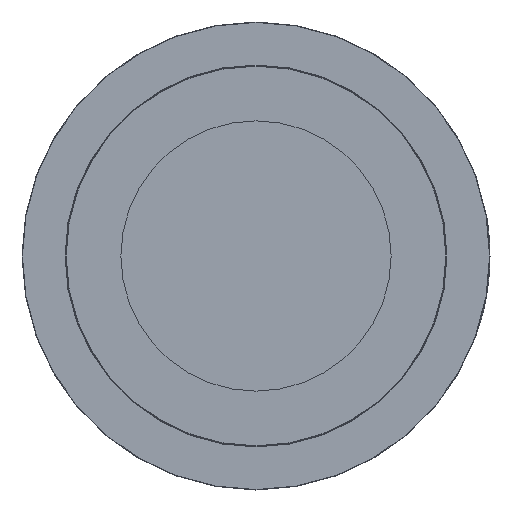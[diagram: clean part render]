
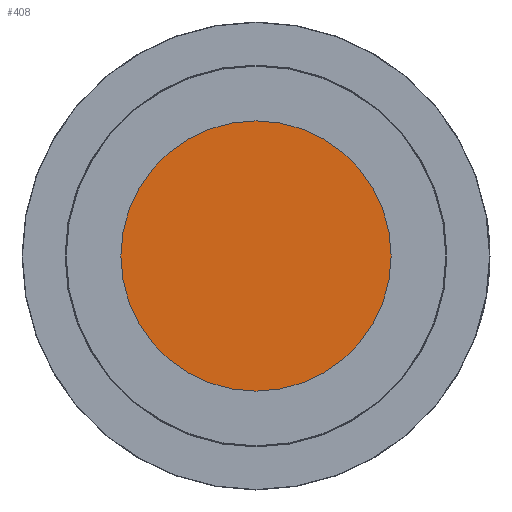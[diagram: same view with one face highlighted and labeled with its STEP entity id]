
A CAD part, left-side view. The second image highlights one B-rep face of the part: STEP entity #408.
In plain terms, the highlighted planar face has unit normal (-1, 0, 0).
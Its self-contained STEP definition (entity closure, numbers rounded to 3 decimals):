
#408 = ADVANCED_FACE( '', ( #955 ), #956, .F. );
#955 = FACE_OUTER_BOUND( '', #2386, .T. );
#956 = PLANE( '', #2387 );
#2386 = EDGE_LOOP( '', ( #4622 ) );
#2387 = AXIS2_PLACEMENT_3D( '', #4623, #4624, #4625 );
#4622 = ORIENTED_EDGE( '', *, *, #6164, .T. );
#4623 = CARTESIAN_POINT( '', ( -3.01, 0., 0. ) );
#4624 = DIRECTION( '', ( 1., 0., 0. ) );
#4625 = DIRECTION( '', ( 0., 0., -1. ) );
#6164 = EDGE_CURVE( '', #7170, #7170, #7171, .T. );
#7170 = VERTEX_POINT( '', #9185 );
#7171 = CIRCLE( '', #9186, 169.164 );
#9185 = CARTESIAN_POINT( '', ( -3.01, 0., 169.164 ) );
#9186 = AXIS2_PLACEMENT_3D( '', #10797, #10798, #10799 );
#10797 = CARTESIAN_POINT( '', ( -3.01, 0., 0. ) );
#10798 = DIRECTION( '', ( -1., 0., 0. ) );
#10799 = DIRECTION( '', ( 0., 0., 1. ) );
